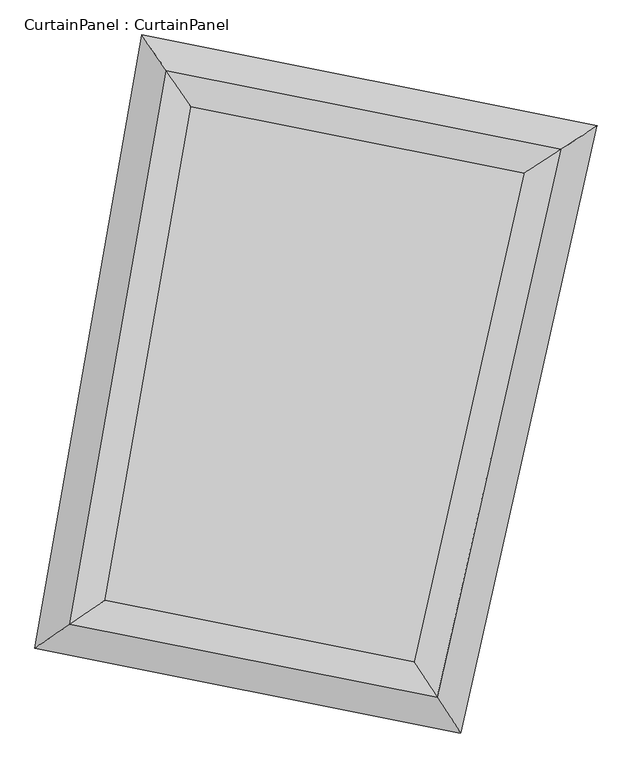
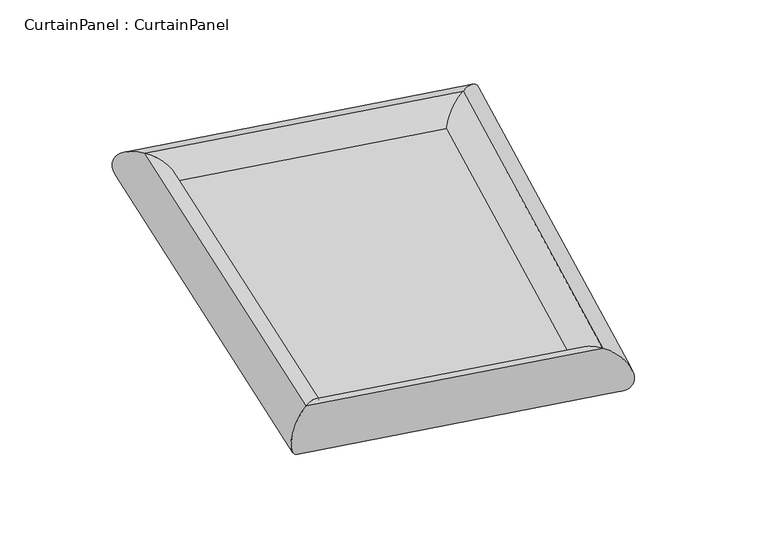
"""IFC4 building model written with IfcOpenShell, lengths in millimetres: plate geometry, CurtainPanel : CurtainPanel."""

from ifc_helpers import new_model, si_unit, frame, origin, origin_with_axes, place, context, project, spatial, polyline, ellipse_curve, outline, extrude, source, transform, mapped, element, save
from ifc_brep_helpers import cylinder_surface, advanced_brep


def curtainpanel_curtainpanel_4a611b63(model_context):
    return source(origin(), model_context, "Body", "SolidModel", [
        extrude(outline(polyline([(2847.484603, 2847.484603), (3543.6384562, 6845.3064863), (6393.4811689, 6277.1850917), (5503.3957718, 2318.0238189), (2847.484603, 2847.484603)])), origin_with_axes(), (0.0, 0.0, 1.0), 20.0),
        advanced_brep(
        [(2847.484603, 2847.484603, -220.0), (2847.484603, 2847.484603, 220.0), (5503.3957718, 2318.0238189, 220.0), (5503.3957718, 2318.0238189, -220.0), (6393.4811689, 6277.1850917, 220.0), (6393.4811689, 6277.1850917, -220.0), (3543.6384562, 6845.3064863, 220.0), (3543.6384562, 6845.3064863, -220.0)],
        [
            (0, 1, ellipse_curve(frame((2847.484603, 2847.484603, 0.0), z_axis=(0.5653106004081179, -0.8248781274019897, 0.0), x_axis=(-0.8248781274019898, -0.5653106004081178, 0.0)), 307.4045262, 220.0)),
            (1, 2),
            (2, 3, ellipse_curve(frame((5503.3957718, 2318.0238189, 0.0), z_axis=(-0.8384071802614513, -0.5450444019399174, 0.0), x_axis=(-0.5450444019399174, 0.8384071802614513, 0.0)), 307.4045262, 220.0)),
            (3, 0),
            (1, 0, ellipse_curve(frame((2847.484603, 2847.484603, 0.0), z_axis=(0.5653106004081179, -0.8248781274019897, 0.0), x_axis=(-0.8248781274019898, -0.5653106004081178, 0.0)), 307.4045262, 220.0)),
            (3, 2, ellipse_curve(frame((5503.3957718, 2318.0238189, 0.0), z_axis=(-0.8384071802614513, -0.5450444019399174, 0.0), x_axis=(-0.5450444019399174, 0.8384071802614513, 0.0)), 307.4045262, 220.0)),
            (2, 4),
            (4, 5, ellipse_curve(frame((6393.4811689, 6277.1850917, 0.0), z_axis=(0.5450444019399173, -0.8384071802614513, 0.0), x_axis=(-0.8384071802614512, -0.5450444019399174, 0.0)), 314.9880304, 220.0)),
            (5, 3),
            (5, 4, ellipse_curve(frame((6393.4811689, 6277.1850917, 0.0), z_axis=(0.5450444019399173, -0.8384071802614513, 0.0), x_axis=(-0.8384071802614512, -0.5450444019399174, 0.0)), 314.9880304, 220.0)),
            (4, 6),
            (6, 7, ellipse_curve(frame((3543.6384562, 6845.3064863, 0.0), z_axis=(0.8248781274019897, 0.5653106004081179, 0.0), x_axis=(0.565310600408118, -0.8248781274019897, 0.0)), 314.9880304, 220.0)),
            (7, 5),
            (7, 6, ellipse_curve(frame((3543.6384562, 6845.3064863, 0.0), z_axis=(0.8248781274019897, 0.5653106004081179, 0.0), x_axis=(0.565310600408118, -0.8248781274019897, 0.0)), 314.9880304, 220.0)),
            (6, 1),
            (0, 7),
        ],
        [
            cylinder_surface(frame((2847.484603, 2847.484603, 0.0), z_axis=(-0.9807027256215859, 0.195504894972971, 0.0), x_axis=(0.195504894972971, 0.9807027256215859, 0.0)), 220.0),
            cylinder_surface(frame((5503.3957718, 2318.0238189, 0.0), z_axis=(-0.21934193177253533, -0.9756480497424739, 0.0), x_axis=(-0.9756480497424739, 0.21934193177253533, 0.0)), 220.0),
            cylinder_surface(frame((6393.4811689, 6277.1850917, 0.0), z_axis=(0.980702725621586, -0.19550489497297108, 0.0), x_axis=(-0.19550489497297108, -0.980702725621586, 0.0)), 220.0),
            cylinder_surface(frame((3543.6384562, 6845.3064863, 0.0), z_axis=(0.1715517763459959, 0.9851751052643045, 0.0), x_axis=(0.9851751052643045, -0.1715517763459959, 0.0)), 220.0),
        ],
        [
            (0, [[1, 2, 3, 4]]),
            (0, [[5, -4, 6, -2]]),
            (1, [[-3, 7, 8, 9]]),
            (1, [[-6, -9, 10, -7]]),
            (2, [[-8, 11, 12, 13]]),
            (2, [[-10, -13, 14, -11]]),
            (3, [[-12, 15, -1, 16]]),
            (3, [[-14, -16, -5, -15]]),
        ],
    ),
    ])


if __name__ == "__main__":
    model = new_model("IFC4")
    model_context = context("Model", 3, world=origin())
    ifc_project = project(units=[si_unit("LENGTHUNIT", "METRE", prefix="MILLI")], contexts=[model_context])
    site = spatial("IfcSite", under=ifc_project)
    building = spatial("IfcBuilding", under=site)
    placement = place(None, origin())
    curtainpanel_curtainpanel_shape = curtainpanel_curtainpanel_4a611b63(model_context)
    element("IfcPlate", 1, ObjectType="CurtainPanel : CurtainPanel", at=placement, inside=building, context=model_context, shape_type="MappedRepresentation", body=[
        mapped(curtainpanel_curtainpanel_shape, transform((0.0, 0.0, 0.0), x_axis=(1.0, 0.0, 0.0), y_axis=(0.0, 1.0, 0.0), z_axis=(0.0, 0.0, 1.0))),
    ])
    save(model, "model.ifc")
